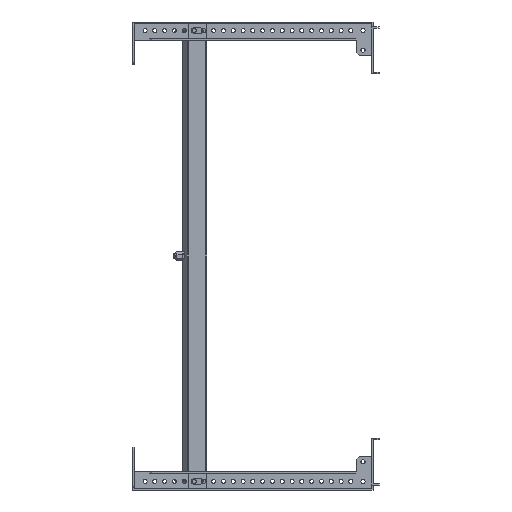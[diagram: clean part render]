
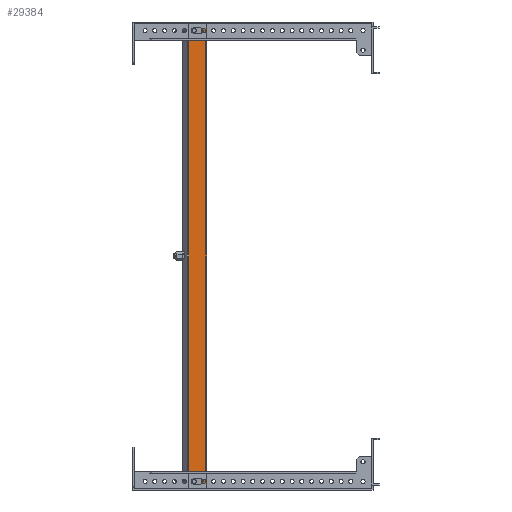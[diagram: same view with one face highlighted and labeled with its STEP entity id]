
A CAD part, front view. The second image highlights one B-rep face of the part: STEP entity #29384.
In plain terms, the highlighted planar face has unit normal (0, -1, 0).
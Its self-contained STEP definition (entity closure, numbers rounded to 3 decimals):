
#429 = EDGE_CURVE ( 'NONE', #16607, #15777, #20263, .T. ) ;
#543 = EDGE_CURVE ( 'NONE', #28668, #27779, #3459, .T. ) ;
#779 = CARTESIAN_POINT ( 'NONE',  ( 1128.304, -254., 497.5 ) ) ;
#1045 = DIRECTION ( 'NONE',  ( -1., 0., 0. ) ) ;
#1253 = EDGE_CURVE ( 'NONE', #18120, #17631, #10893, .T. ) ;
#1410 = FACE_BOUND ( 'NONE', #26024, .T. ) ;
#1448 = LINE ( 'NONE', #8374, #7629 ) ;
#1694 = DIRECTION ( 'NONE',  ( 0., -1., 0. ) ) ;
#1714 = CARTESIAN_POINT ( 'NONE',  ( 1150.77, -254., 200. ) ) ;
#3459 = CIRCLE ( 'NONE', #9858, 3.5 ) ;
#3846 = CIRCLE ( 'NONE', #25620, 3.5 ) ;
#3964 = ORIENTED_EDGE ( 'NONE', *, *, #1253, .F. ) ;
#4023 = ORIENTED_EDGE ( 'NONE', *, *, #19926, .T. ) ;
#4036 = LINE ( 'NONE', #13453, #5569 ) ;
#4163 = DIRECTION ( 'NONE',  ( 0., 1., 0. ) ) ;
#4351 = VERTEX_POINT ( 'NONE', #21226 ) ;
#4817 = ORIENTED_EDGE ( 'NONE', *, *, #10115, .F. ) ;
#5040 = VECTOR ( 'NONE', #5255, 1000. ) ;
#5117 = ORIENTED_EDGE ( 'NONE', *, *, #543, .T. ) ;
#5249 = EDGE_CURVE ( 'NONE', #18087, #4351, #3846, .T. ) ;
#5255 = DIRECTION ( 'NONE',  ( 1., 0., 0. ) ) ;
#5472 = AXIS2_PLACEMENT_3D ( 'NONE', #28278, #7562, #12030 ) ;
#5569 = VECTOR ( 'NONE', #8977, 1000. ) ;
#5637 = VERTEX_POINT ( 'NONE', #22045 ) ;
#6312 = FACE_BOUND ( 'NONE', #13574, .T. ) ;
#6340 = CARTESIAN_POINT ( 'NONE',  ( 1108.802, -254., 487.5 ) ) ;
#6665 = CARTESIAN_POINT ( 'NONE',  ( 1150.146, -254., -97.5 ) ) ;
#7114 = VECTOR ( 'NONE', #23045, 1000. ) ;
#7562 = DIRECTION ( 'NONE',  ( 0., -1., 0. ) ) ;
#7570 = VERTEX_POINT ( 'NONE', #9498 ) ;
#7629 = VECTOR ( 'NONE', #22738, 1000. ) ;
#8007 = ORIENTED_EDGE ( 'NONE', *, *, #21560, .T. ) ;
#8374 = CARTESIAN_POINT ( 'NONE',  ( 1105.802, -254., -97.5 ) ) ;
#8412 = CARTESIAN_POINT ( 'NONE',  ( 1112.302, -254., 487.5 ) ) ;
#8977 = DIRECTION ( 'NONE',  ( 1., 0., 0. ) ) ;
#9080 = CARTESIAN_POINT ( 'NONE',  ( 1112.302, -254., -87.5 ) ) ;
#9498 = CARTESIAN_POINT ( 'NONE',  ( 1112.302, -254., -91. ) ) ;
#9632 = CARTESIAN_POINT ( 'NONE',  ( 1120.302, -254., 487.5 ) ) ;
#9782 = DIRECTION ( 'NONE',  ( 0., 1., 0. ) ) ;
#9803 = ORIENTED_EDGE ( 'NONE', *, *, #23498, .F. ) ;
#9858 = AXIS2_PLACEMENT_3D ( 'NONE', #28602, #18861, #28305 ) ;
#9883 = CARTESIAN_POINT ( 'NONE',  ( 1112.302, -254., -84. ) ) ;
#9972 = EDGE_CURVE ( 'NONE', #5637, #28668, #22598, .T. ) ;
#10075 = DIRECTION ( 'NONE',  ( 1., 0., 0. ) ) ;
#10115 = EDGE_CURVE ( 'NONE', #15777, #12006, #1448, .T. ) ;
#10618 = CARTESIAN_POINT ( 'NONE',  ( 1112.302, -254., 484. ) ) ;
#10893 = CIRCLE ( 'NONE', #17317, 3.5 ) ;
#11337 = EDGE_CURVE ( 'NONE', #27779, #15278, #20022, .T. ) ;
#11728 = CARTESIAN_POINT ( 'NONE',  ( 1105.802, -254., 497.5 ) ) ;
#11773 = CARTESIAN_POINT ( 'NONE',  ( 1128.304, -254., -97.5 ) ) ;
#11823 = VERTEX_POINT ( 'NONE', #779 ) ;
#11951 = DIRECTION ( 'NONE',  ( 0., -1., 0. ) ) ;
#12006 = VERTEX_POINT ( 'NONE', #11728 ) ;
#12030 = DIRECTION ( 'NONE',  ( -1., 0., 0. ) ) ;
#12350 = LINE ( 'NONE', #9883, #26295 ) ;
#13083 = ORIENTED_EDGE ( 'NONE', *, *, #18237, .F. ) ;
#13453 = CARTESIAN_POINT ( 'NONE',  ( 1105.802, -254., 497.5 ) ) ;
#13528 = ORIENTED_EDGE ( 'NONE', *, *, #429, .F. ) ;
#13574 = EDGE_LOOP ( 'NONE', ( #5117, #13868, #4023, #8007, #16460 ) ) ;
#13719 = PLANE ( 'NONE',  #28397 ) ;
#13868 = ORIENTED_EDGE ( 'NONE', *, *, #11337, .T. ) ;
#13946 = CARTESIAN_POINT ( 'NONE',  ( 1108.802, -254., -87.5 ) ) ;
#13971 = DIRECTION ( 'NONE',  ( -1., 0., 0. ) ) ;
#14035 = EDGE_CURVE ( 'NONE', #12006, #11823, #4036, .T. ) ;
#14521 = CARTESIAN_POINT ( 'NONE',  ( 1112.302, -254., 491. ) ) ;
#14710 = CARTESIAN_POINT ( 'NONE',  ( 1128.304, -254., -100.859 ) ) ;
#14849 = AXIS2_PLACEMENT_3D ( 'NONE', #9632, #9782, #19053 ) ;
#14873 = CIRCLE ( 'NONE', #14849, 3.5 ) ;
#15071 = DIRECTION ( 'NONE',  ( 0., 1., 0. ) ) ;
#15129 = CARTESIAN_POINT ( 'NONE',  ( 1112.302, -254., 491. ) ) ;
#15278 = VERTEX_POINT ( 'NONE', #15129 ) ;
#15733 = DIRECTION ( 'NONE',  ( 1., 0., 0. ) ) ;
#15777 = VERTEX_POINT ( 'NONE', #24016 ) ;
#16074 = ORIENTED_EDGE ( 'NONE', *, *, #14035, .F. ) ;
#16176 = DIRECTION ( 'NONE',  ( -1., 0., 0. ) ) ;
#16460 = ORIENTED_EDGE ( 'NONE', *, *, #9972, .T. ) ;
#16607 = VERTEX_POINT ( 'NONE', #11773 ) ;
#16909 = CARTESIAN_POINT ( 'NONE',  ( 1120.302, -254., -87.5 ) ) ;
#17173 = CARTESIAN_POINT ( 'NONE',  ( 1112.302, -254., -91. ) ) ;
#17317 = AXIS2_PLACEMENT_3D ( 'NONE', #9080, #1694, #16176 ) ;
#17573 = ORIENTED_EDGE ( 'NONE', *, *, #17865, .T. ) ;
#17631 = VERTEX_POINT ( 'NONE', #13946 ) ;
#17785 = EDGE_LOOP ( 'NONE', ( #16074, #4817, #13528, #17573 ) ) ;
#17865 = EDGE_CURVE ( 'NONE', #16607, #11823, #26465, .T. ) ;
#17904 = FACE_OUTER_BOUND ( 'NONE', #17785, .T. ) ;
#18087 = VERTEX_POINT ( 'NONE', #20715 ) ;
#18091 = CARTESIAN_POINT ( 'NONE',  ( 1112.302, -254., -84. ) ) ;
#18120 = VERTEX_POINT ( 'NONE', #18091 ) ;
#18237 = EDGE_CURVE ( 'NONE', #4351, #18120, #12350, .T. ) ;
#18861 = DIRECTION ( 'NONE',  ( 0., 1., 0. ) ) ;
#19053 = DIRECTION ( 'NONE',  ( -1., 0., 0. ) ) ;
#19926 = EDGE_CURVE ( 'NONE', #15278, #23960, #21327, .T. ) ;
#20022 = CIRCLE ( 'NONE', #28927, 3.5 ) ;
#20263 = LINE ( 'NONE', #6665, #28128 ) ;
#20700 = ORIENTED_EDGE ( 'NONE', *, *, #5249, .F. ) ;
#20715 = CARTESIAN_POINT ( 'NONE',  ( 1120.302, -254., -91. ) ) ;
#21226 = CARTESIAN_POINT ( 'NONE',  ( 1120.302, -254., -84. ) ) ;
#21327 = LINE ( 'NONE', #14521, #5040 ) ;
#21341 = VECTOR ( 'NONE', #24147, 1000. ) ;
#21560 = EDGE_CURVE ( 'NONE', #23960, #5637, #14873, .T. ) ;
#22045 = CARTESIAN_POINT ( 'NONE',  ( 1120.302, -254., 484. ) ) ;
#22598 = LINE ( 'NONE', #25380, #7114 ) ;
#22738 = DIRECTION ( 'NONE',  ( 0., 0., 1. ) ) ;
#23045 = DIRECTION ( 'NONE',  ( -1., 0., 0. ) ) ;
#23125 = EDGE_CURVE ( 'NONE', #7570, #18087, #28612, .T. ) ;
#23217 = CIRCLE ( 'NONE', #5472, 3.5 ) ;
#23498 = EDGE_CURVE ( 'NONE', #17631, #7570, #23217, .T. ) ;
#23960 = VERTEX_POINT ( 'NONE', #27266 ) ;
#24016 = CARTESIAN_POINT ( 'NONE',  ( 1105.802, -254., -97.5 ) ) ;
#24147 = DIRECTION ( 'NONE',  ( 0., 0., 1. ) ) ;
#25192 = VECTOR ( 'NONE', #10075, 1000. ) ;
#25380 = CARTESIAN_POINT ( 'NONE',  ( 1112.302, -254., 484. ) ) ;
#25615 = ORIENTED_EDGE ( 'NONE', *, *, #23125, .F. ) ;
#25620 = AXIS2_PLACEMENT_3D ( 'NONE', #16909, #11951, #13971 ) ;
#26024 = EDGE_LOOP ( 'NONE', ( #25615, #9803, #3964, #13083, #20700 ) ) ;
#26295 = VECTOR ( 'NONE', #28917, 1000. ) ;
#26465 = LINE ( 'NONE', #14710, #21341 ) ;
#27266 = CARTESIAN_POINT ( 'NONE',  ( 1120.302, -254., 491. ) ) ;
#27779 = VERTEX_POINT ( 'NONE', #6340 ) ;
#28128 = VECTOR ( 'NONE', #29699, 1000. ) ;
#28278 = CARTESIAN_POINT ( 'NONE',  ( 1112.302, -254., -87.5 ) ) ;
#28305 = DIRECTION ( 'NONE',  ( -1., 0., 0. ) ) ;
#28397 = AXIS2_PLACEMENT_3D ( 'NONE', #1714, #4163, #15733 ) ;
#28602 = CARTESIAN_POINT ( 'NONE',  ( 1112.302, -254., 487.5 ) ) ;
#28612 = LINE ( 'NONE', #17173, #25192 ) ;
#28668 = VERTEX_POINT ( 'NONE', #10618 ) ;
#28917 = DIRECTION ( 'NONE',  ( -1., 0., 0. ) ) ;
#28927 = AXIS2_PLACEMENT_3D ( 'NONE', #8412, #15071, #1045 ) ;
#29384 = ADVANCED_FACE ( 'NONE', ( #17904, #6312, #1410 ), #13719, .F. ) ;
#29699 = DIRECTION ( 'NONE',  ( -1., 0., 0. ) ) ;
